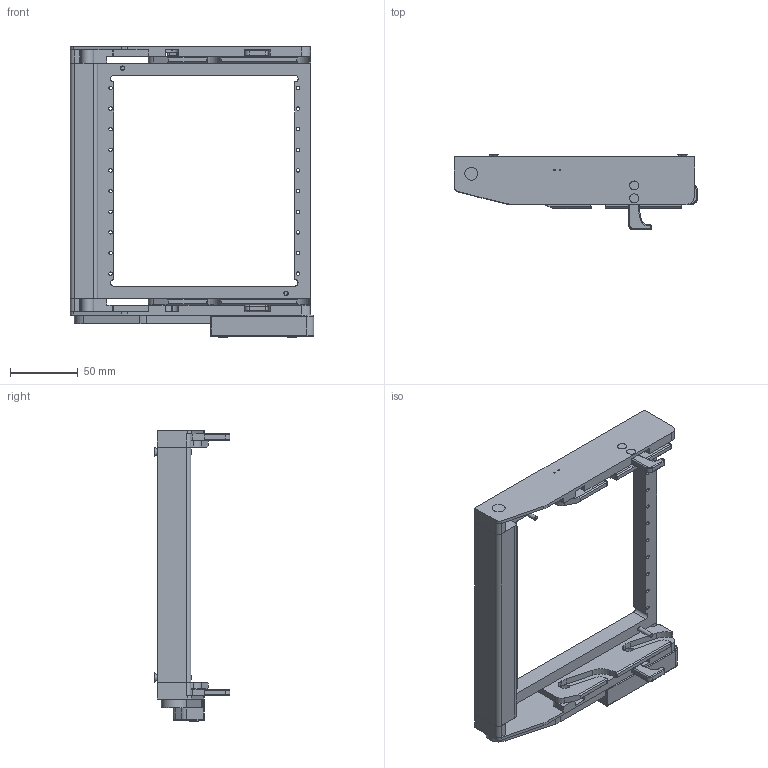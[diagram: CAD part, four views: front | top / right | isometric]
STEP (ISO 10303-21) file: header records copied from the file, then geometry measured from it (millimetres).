
FILE_DESCRIPTION((''),'2;1');
FILE_NAME('C:\old_Drawings\shrinkwrapped website .stp files\561353-STP.stp','2011-07-19T14:21:17',('GaryRobinson'),(''),'Autodesk Inventor 2011','Autodesk Inventor 2011','');
FILE_SCHEMA(('CONFIG_CONTROL_DESIGN'));
Length unit declared in the file: inch
Products named in the file (1): 561353-STP
Bounding box: 179.73 x 55.78 x 214.81 mm (x, y, z)
Surface area: 124632 mm2 (no closed solid volume)
Topology: 0 solids, 24 shells, 557 faces, 1406 edges, 897 vertices
Faces by surface type: plane 256, cylinder 218, cone 39, torus 26, bspline 10, sphere 8
Full cylindrical faces by diameter (mm): 0.508 x3, 1.016 x1, 1.27 x2, 1.6 x2, 2.489 x2, 2.54 x20, 2.64 x8, 2.642 x11, 3.175 x5, 3.505 x7, 4.166 x2, 6.858 x2, 9.525 x1
Entity records: 16954 total; most frequent: CARTESIAN_POINT 3147, DIRECTION 2841, ORIENTED_EDGE 2494, EDGE_CURVE 1247, AXIS2_PLACEMENT_3D 1053, VERTEX_POINT 853, EDGE_LOOP 742, VECTOR 735
